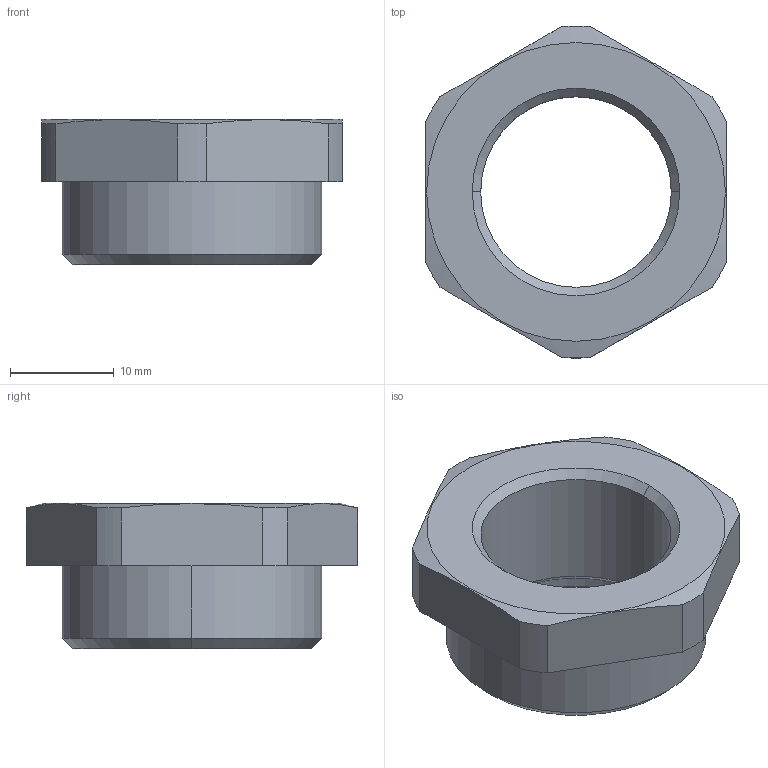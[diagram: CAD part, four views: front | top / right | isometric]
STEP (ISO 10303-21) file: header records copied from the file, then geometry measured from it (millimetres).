
FILE_DESCRIPTION (( 'STEP AP203' ), '1' );
FILE_NAME ('M25M20 PA.STEP', '2005-12-09T07:38:20', ( ' ' ), ( '' ), 'SwSTEP 2.0', 'SolidWorks 2005278', '' );
FILE_SCHEMA (( 'CONFIG_CONTROL_DESIGN' ));
Length unit declared in the file: millimetre
Products named in the file (1): M25M20 PA
Bounding box: 29 x 31.99 x 14 mm (x, y, z)
Volume: 4408.6 mm3; surface area: 2830 mm2
Topology: 1 solids, 1 shells, 67 faces, 174 edges, 114 vertices
Faces by surface type: plane 47, cylinder 12, cone 8
Entity records: 2129 total; most frequent: CARTESIAN_POINT 388, ORIENTED_EDGE 348, DIRECTION 334, EDGE_CURVE 174, VECTOR 134, LINE 134, VERTEX_POINT 114, AXIS2_PLACEMENT_3D 100
